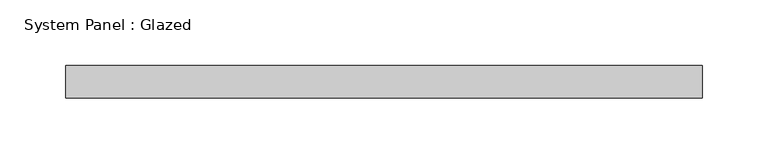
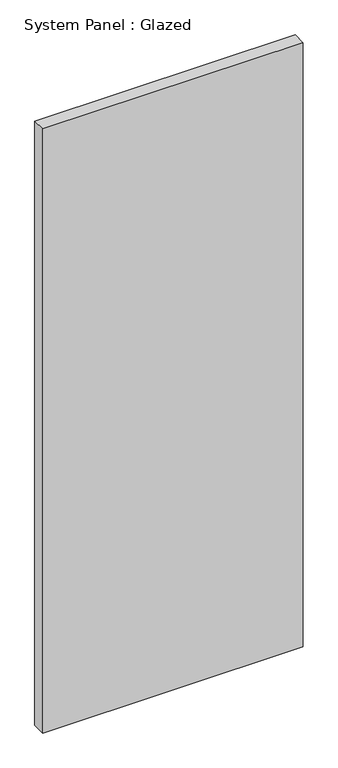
"""IFC4 building model written with IfcOpenShell, lengths in millimetres: plate geometry, System Panel : Glazed."""

from ifc_helpers import new_model, si_unit, origin, origin_with_axes, place, context, project, spatial, polyline, outline, extrude, source, transform, mapped, element, save


def system_panel_glazed_6a7ed4c6(model_context):
    return source(origin(), model_context, "Body", "SweptSolid", [
        extrude(outline(polyline([(242.8679656, -12.5), (-242.8679656, -12.5), (-242.8679656, 12.5), (242.8679656, 12.5), (242.8679656, -12.5)])), origin_with_axes(), (0.0, 0.0, 1.0), 1190.0),
    ])


if __name__ == "__main__":
    model = new_model("IFC4")
    model_context = context("Model", 3, world=origin())
    ifc_project = project(units=[si_unit("LENGTHUNIT", "METRE", prefix="MILLI")], contexts=[model_context])
    site = spatial("IfcSite", under=ifc_project)
    building = spatial("IfcBuilding", under=site)
    placement = place(None, origin())
    system_panel_glazed_shape = system_panel_glazed_6a7ed4c6(model_context)
    element("IfcPlate", 1, ObjectType="System Panel : Glazed", at=placement, inside=building, context=model_context, shape_type="MappedRepresentation", body=[
        mapped(system_panel_glazed_shape, transform((0.0, 0.0, 0.0), x_axis=(1.0, 0.0, 0.0), y_axis=(0.0, 1.0, 0.0), z_axis=(0.0, 0.0, 1.0))),
    ])
    save(model, "model.ifc")
